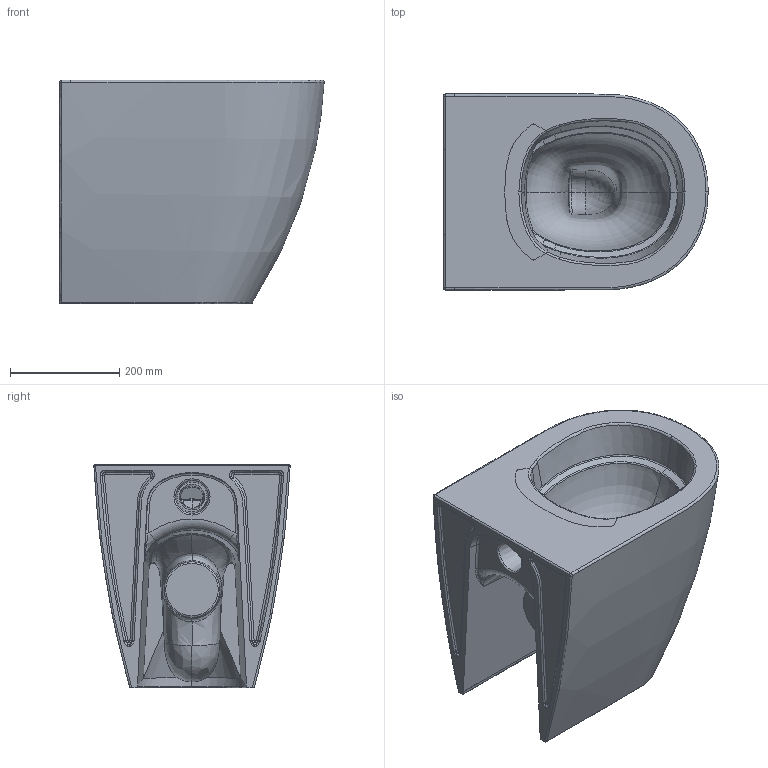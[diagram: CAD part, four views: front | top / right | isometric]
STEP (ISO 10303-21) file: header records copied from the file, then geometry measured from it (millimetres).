
FILE_DESCRIPTION(/* description */ (''),/* implementation_level */ '2;1');
FILE_NAME(/* name */ 'WC_FUSION_COMPACT_485_BTW_PROTAP01.stp',/* time_stamp */ '2022-07-01T08:55:58+02:00',/* author */ (''),/* organization */ (''),/* preprocessor_version */ 'ST-DEVELOPER v18.1',/* originating_system */ 'SIEMENS PLM Software NX 1973',/* authorisation */ '');
FILE_SCHEMA (('AP203_CONFIGURATION_CONTROLLED_3D_DESIGN_OF_MECHANICAL_PARTS_AND_ASSEMBLIES_MIM_LF { 1 0 10303 403 2 1 2}'));
Products named in the file (1): Cava2DFC7F51bw9b
Bounding box: 484.77 x 359.86 x 410 mm (x, y, z)
Volume: 31111865.1 mm3; surface area: 1203087.3 mm2
Topology: 2 solids, 2 shells, 373 faces, 934 edges, 548 vertices
Faces by surface type: bspline 324, plane 20, cylinder 9, extrusion 6, sphere 6, cone 4, torus 4
Entity records: 57425 total; most frequent: CARTESIAN_POINT 51167, ORIENTED_EDGE 1818, EDGE_CURVE 909, B_SPLINE_CURVE_WITH_KNOTS 718, VERTEX_POINT 547, DIRECTION 456, EDGE_LOOP 382, ADVANCED_FACE 373
